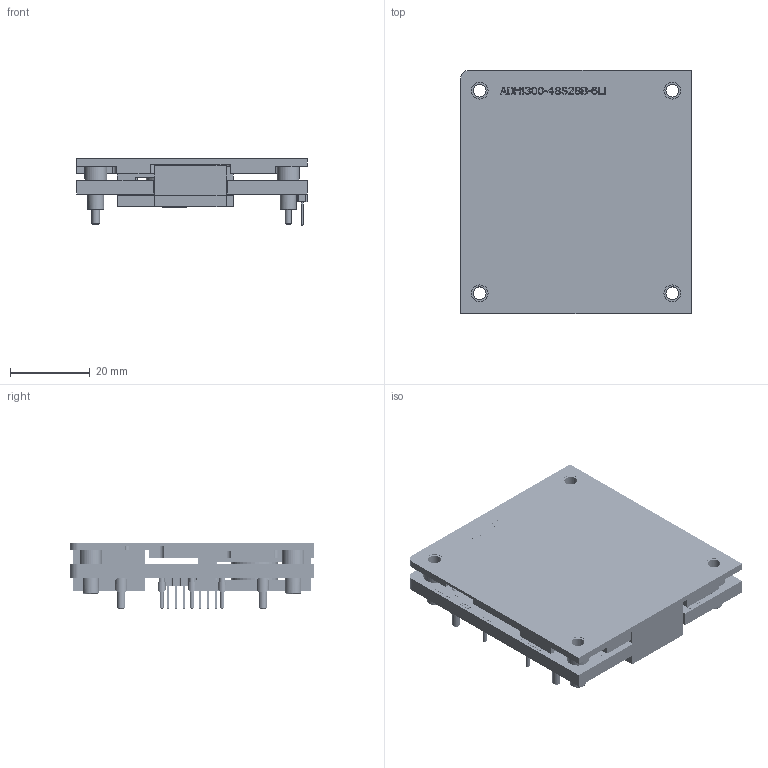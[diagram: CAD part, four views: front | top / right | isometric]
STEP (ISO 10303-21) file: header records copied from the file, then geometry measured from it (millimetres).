
FILE_DESCRIPTION((''),'2;1');
FILE_NAME('ADH1300-48S28B-6LI_OUTLINE-3D_ASM','2024-06-13T13:49:58',('JOHNNY.HE'),(''),'CREO PARAMETRIC BY PTC INC, 2020454','CREO PARAMETRIC BY PTC INC, 2020454','');
FILE_SCHEMA(('CONFIG_CONTROL_DESIGN','SHAPE_APPEARANCE_LAYERS_GROUPS'));
Products named in the file (34): 509-036172-0002-AA_1_1; 602-005347-0100-D2-D3-107_1_1; 602-005349-0100-D15-D3-D2-107_1; 602-005348-0100-D1-D25-D15-91_1; 820-L1-U_1_1; 820-T1-I_1_1; 820-T1-U_1_1; 451-019701-0007_1_1; 509-036172-0002-AA_ASM_1_ASM_1_ASM; 466-004087-0002-BASEPLATE_1_1; 601-FASTENER-ADH1300_1_1; 466-004087-0002-BASEPLATE_ASM_1_ASM; 531-005009-0000-MODEL-LABEL_1_1; 531-LASER_1_1_1; 531-LASER_1_2_1; 531-LASER_1_3_1; 531-LASER_1_4_1; 531-LASER_1_5_1; 531-LASER_1_6_1; 531-LASER_1_7_1; 531-LASER_1_8_1; 531-LASER_1_9_1; 531-LASER_1_10_1; 531-LASER_1_11_1; 531-LASER_1_12_1; 531-LASER_1_13_1; 531-LASER_1_14_1; 531-LASER_1_15_1; 531-LASER_1_16_1; 531-LASER_1_17_1; 531-LASER_1_18_1; 531-LASER_1_ASM_1_ASM; ASSY-ADH1300-48S28B-6LI_ASM_1_A_ASM; ADH1300-48S28B-6LI_OUTLINE-3D_ASM
Assembly tree (43 placements, depth 4):
  ADH1300-48S28B-6LI_OUTLINE-3D_ASM
    ASSY-ADH1300-48S28B-6LI_ASM_1_A_ASM
      509-036172-0002-AA_ASM_1_ASM_1_ASM
        509-036172-0002-AA_1_1
        602-005347-0100-D2-D3-107_1_1  x2
        602-005349-0100-D15-D3-D2-107_1  x2
        602-005348-0100-D1-D25-D15-91_1  x5
        820-L1-U_1_1
        820-T1-I_1_1  x2
        820-T1-U_1_1
        451-019701-0007_1_1
      466-004087-0002-BASEPLATE_ASM_1_ASM
        466-004087-0002-BASEPLATE_1_1
        601-FASTENER-ADH1300_1_1  x4
      531-005009-0000-MODEL-LABEL_1_1
      531-LASER_1_ASM_1_ASM
        531-LASER_1_1_1
        531-LASER_1_2_1
        531-LASER_1_3_1
        531-LASER_1_4_1
        531-LASER_1_5_1
        531-LASER_1_6_1
        531-LASER_1_7_1
        531-LASER_1_8_1
        531-LASER_1_9_1
        531-LASER_1_10_1
        531-LASER_1_11_1
        531-LASER_1_12_1
        531-LASER_1_13_1
        531-LASER_1_14_1
        531-LASER_1_15_1
        531-LASER_1_16_1
        531-LASER_1_17_1
        531-LASER_1_18_1
Bounding box: 57.9 x 61 x 16.61 mm (x, y, z)
Volume: 26054.8 mm3; surface area: 27625 mm2
Topology: 39 solids, 43 shells, 5099 faces, 14346 edges, 9466 vertices
Faces by surface type: plane 3453, cylinder 1442, cone 188, torus 16
Entity records: 177791 total; most frequent: CARTESIAN_POINT 25737, ORIENTED_EDGE 25004, DIRECTION 24330, EDGE_CURVE 12502, VECTOR 9520, LINE 9520, VERTEX_POINT 8306, AXIS2_PLACEMENT_3D 7405
